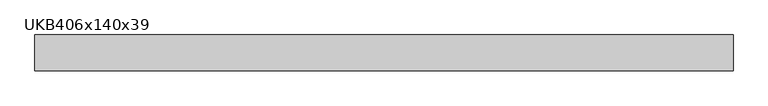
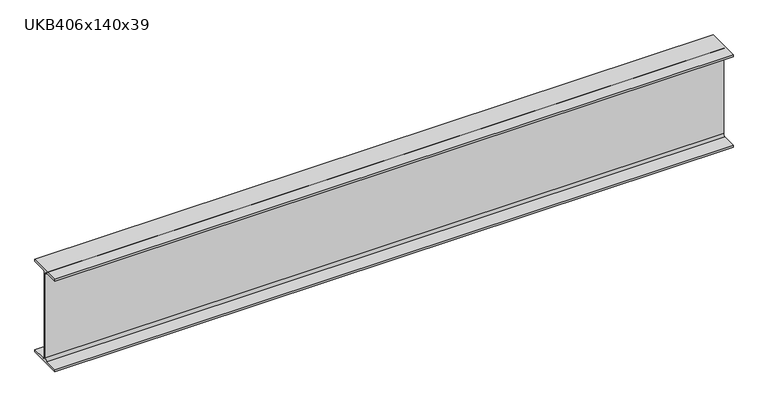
"""IFC4 building model written with IfcOpenShell, lengths in millimetres: beam geometry, UKB-UK Beams : UKB406x140x39."""

from ifc_helpers import new_model, si_unit, point, frame, frame_2d, origin, place, context, project, spatial, polyline, circle_curve, trimmed, segment, composite_curve, outline, extrude, source, transform, mapped, element, save


def ukb406x140x39_028f263f(model_context):
    return source(origin(), model_context, "Body", "SweptSolid", [
        extrude(outline(composite_curve([segment(polyline([(70.9, -190.4), (70.9, -199.0), (-70.9, -199.0), (-70.9, -190.4), (-13.4, -190.4)]), True, "CONTINUOUS"), segment(trimmed(circle_curve(frame_2d((-13.4, -180.2)), 10.2), [point((-13.4, -190.4))], [point((-3.2, -180.2))], True, "CARTESIAN"), True, "CONTINUOUS"), segment(polyline([(-3.2, -180.2), (-3.2, 180.2)]), True, "CONTINUOUS"), segment(trimmed(circle_curve(frame_2d((-13.4, 180.2)), 10.2), [point((-3.2, 180.2))], [point((-13.4, 190.4))], True, "CARTESIAN"), True, "CONTINUOUS"), segment(polyline([(-13.4, 190.4), (-70.9, 190.4), (-70.9, 199.0), (70.9, 199.0), (70.9, 190.4), (13.4, 190.4)]), True, "CONTINUOUS"), segment(trimmed(circle_curve(frame_2d((13.4, 180.2)), 10.2), [point((13.4, 190.4))], [point((3.2, 180.2))], True, "CARTESIAN"), True, "CONTINUOUS"), segment(polyline([(3.2, 180.2), (3.2, -180.2)]), True, "CONTINUOUS"), segment(trimmed(circle_curve(frame_2d((13.4, -180.2)), 10.2), [point((3.2, -180.2))], [point((13.4, -190.4))], True, "CARTESIAN"), True, "CONTINUOUS"), segment(polyline([(13.4, -190.4), (70.9, -190.4)]), True, "CONTINUOUS")], self_intersect=False)), frame((-1384.0, 0.0, 0.0), z_axis=(1.0, 0.0, 0.0), x_axis=(0.0, 1.0, 0.0)), (0.0, 0.0, 1.0), 2768.0),
    ])


if __name__ == "__main__":
    model = new_model("IFC4")
    model_context = context("Model", 3, world=origin())
    ifc_project = project(units=[si_unit("LENGTHUNIT", "METRE", prefix="MILLI")], contexts=[model_context])
    site = spatial("IfcSite", under=ifc_project)
    building = spatial("IfcBuilding", under=site)
    placement = place(None, origin())
    ukb406x140x39_shape = ukb406x140x39_028f263f(model_context)
    element("IfcBeam", 1, ObjectType="UKB-UK Beams : UKB406x140x39", at=placement, inside=building, context=model_context, shape_type="MappedRepresentation", body=[
        mapped(ukb406x140x39_shape, transform((0.0, 0.0, 0.0), x_axis=(1.0, 0.0, 0.0), y_axis=(0.0, 1.0, 0.0), z_axis=(0.0, 0.0, 1.0))),
    ])
    save(model, "model.ifc")
